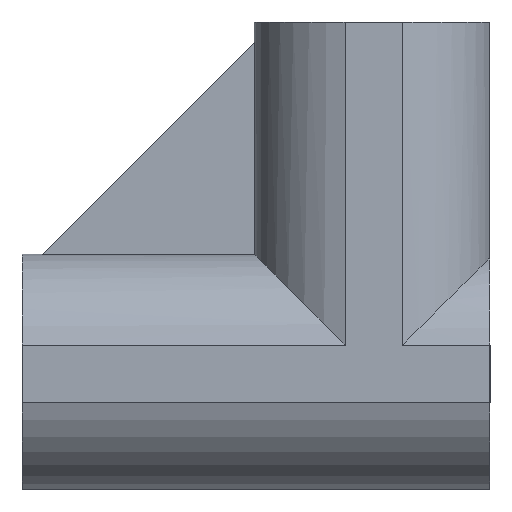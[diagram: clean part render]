
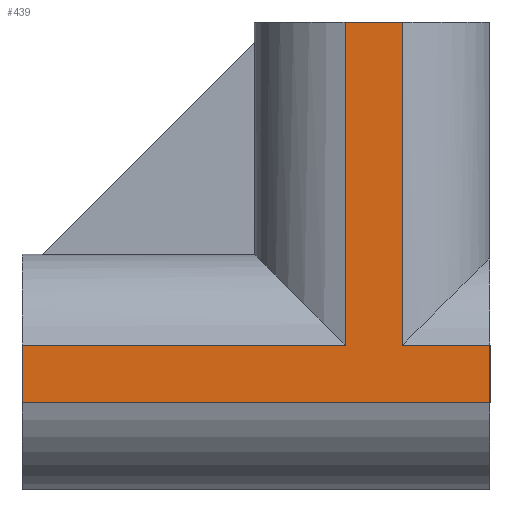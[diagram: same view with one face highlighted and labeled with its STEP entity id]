
A CAD part, left-side view. The second image highlights one B-rep face of the part: STEP entity #439.
In plain terms, the highlighted planar face has unit normal (-1, 0, 0).
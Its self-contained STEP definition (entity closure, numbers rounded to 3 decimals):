
#6 = LINE ( 'NONE', #690, #382 ) ;
#56 = EDGE_CURVE ( 'NONE', #1212, #1360, #202, .T. ) ;
#104 = VECTOR ( 'NONE', #703, 1000. ) ;
#132 = LINE ( 'NONE', #704, #450 ) ;
#138 = CARTESIAN_POINT ( 'NONE',  ( -16.5, 4.093, 4.093 ) ) ;
#168 = AXIS2_PLACEMENT_3D ( 'NONE', #1179, #207, #652 ) ;
#202 = LINE ( 'NONE', #1295, #673 ) ;
#207 = DIRECTION ( 'NONE',  ( 1., 0., 0. ) ) ;
#227 = DIRECTION ( 'NONE',  ( 0., 1., 0. ) ) ;
#270 = EDGE_CURVE ( 'NONE', #1031, #645, #714, .T. ) ;
#285 = CARTESIAN_POINT ( 'NONE',  ( -16.5, -16.5, 4.093 ) ) ;
#291 = EDGE_CURVE ( 'NONE', #1081, #357, #708, .T. ) ;
#293 = DIRECTION ( 'NONE',  ( 0., 1., 0. ) ) ;
#324 = ORIENTED_EDGE ( 'NONE', *, *, #847, .F. ) ;
#357 = VERTEX_POINT ( 'NONE', #138 ) ;
#382 = VECTOR ( 'NONE', #888, 1000. ) ;
#415 = LINE ( 'NONE', #1037, #1361 ) ;
#434 = EDGE_LOOP ( 'NONE', ( #1024, #874, #651, #624, #324, #676, #819, #575 ) ) ;
#439 = ADVANCED_FACE ( 'NONE', ( #1069 ), #1205, .F. ) ;
#450 = VECTOR ( 'NONE', #567, 1000. ) ;
#469 = CARTESIAN_POINT ( 'NONE',  ( -16.5, -4.093, 50. ) ) ;
#485 = EDGE_CURVE ( 'NONE', #1360, #1081, #646, .T. ) ;
#489 = VECTOR ( 'NONE', #227, 1000. ) ;
#529 = CARTESIAN_POINT ( 'NONE',  ( -16.5, 4.093, 50. ) ) ;
#567 = DIRECTION ( 'NONE',  ( 0., 0., -1. ) ) ;
#575 = ORIENTED_EDGE ( 'NONE', *, *, #485, .T. ) ;
#621 = DIRECTION ( 'NONE',  ( 0., 0., 1. ) ) ;
#624 = ORIENTED_EDGE ( 'NONE', *, *, #270, .T. ) ;
#645 = VERTEX_POINT ( 'NONE', #795 ) ;
#646 = LINE ( 'NONE', #990, #489 ) ;
#651 = ORIENTED_EDGE ( 'NONE', *, *, #1215, .T. ) ;
#652 = DIRECTION ( 'NONE',  ( 0., 0., -1. ) ) ;
#673 = VECTOR ( 'NONE', #621, 1000. ) ;
#676 = ORIENTED_EDGE ( 'NONE', *, *, #1077, .T. ) ;
#690 = CARTESIAN_POINT ( 'NONE',  ( -16.5, -16.5, 4.093 ) ) ;
#703 = DIRECTION ( 'NONE',  ( 0., -1., 0. ) ) ;
#704 = CARTESIAN_POINT ( 'NONE',  ( -16.5, -16.5, -4.1 ) ) ;
#708 = LINE ( 'NONE', #930, #1104 ) ;
#714 = LINE ( 'NONE', #1238, #104 ) ;
#736 = CARTESIAN_POINT ( 'NONE',  ( -16.5, 50., -4.1 ) ) ;
#795 = CARTESIAN_POINT ( 'NONE',  ( -16.5, -16.5, -4.093 ) ) ;
#819 = ORIENTED_EDGE ( 'NONE', *, *, #56, .T. ) ;
#847 = EDGE_CURVE ( 'NONE', #1068, #645, #132, .T. ) ;
#874 = ORIENTED_EDGE ( 'NONE', *, *, #1369, .T. ) ;
#888 = DIRECTION ( 'NONE',  ( 0., 1., 0. ) ) ;
#930 = CARTESIAN_POINT ( 'NONE',  ( -16.5, 4.093, -17.001 ) ) ;
#939 = CARTESIAN_POINT ( 'NONE',  ( -16.5, 50., -4.093 ) ) ;
#944 = CARTESIAN_POINT ( 'NONE',  ( -16.5, -4.093, 4.093 ) ) ;
#990 = CARTESIAN_POINT ( 'NONE',  ( -16.5, -4.1, 50. ) ) ;
#1013 = VECTOR ( 'NONE', #1395, 1000. ) ;
#1024 = ORIENTED_EDGE ( 'NONE', *, *, #291, .T. ) ;
#1031 = VERTEX_POINT ( 'NONE', #939 ) ;
#1037 = CARTESIAN_POINT ( 'NONE',  ( -16.5, -16.5, 4.093 ) ) ;
#1068 = VERTEX_POINT ( 'NONE', #285 ) ;
#1069 = FACE_OUTER_BOUND ( 'NONE', #434, .T. ) ;
#1077 = EDGE_CURVE ( 'NONE', #1068, #1212, #415, .T. ) ;
#1081 = VERTEX_POINT ( 'NONE', #529 ) ;
#1104 = VECTOR ( 'NONE', #1214, 1000. ) ;
#1118 = VERTEX_POINT ( 'NONE', #1316 ) ;
#1179 = CARTESIAN_POINT ( 'NONE',  ( -16.5, -4.1, -17. ) ) ;
#1205 = PLANE ( 'NONE',  #168 ) ;
#1212 = VERTEX_POINT ( 'NONE', #944 ) ;
#1214 = DIRECTION ( 'NONE',  ( 0., 0., -1. ) ) ;
#1215 = EDGE_CURVE ( 'NONE', #1118, #1031, #1271, .T. ) ;
#1238 = CARTESIAN_POINT ( 'NONE',  ( -16.5, -16.5, -4.093 ) ) ;
#1271 = LINE ( 'NONE', #736, #1013 ) ;
#1295 = CARTESIAN_POINT ( 'NONE',  ( -16.5, -4.093, -17.001 ) ) ;
#1316 = CARTESIAN_POINT ( 'NONE',  ( -16.5, 50., 4.093 ) ) ;
#1360 = VERTEX_POINT ( 'NONE', #469 ) ;
#1361 = VECTOR ( 'NONE', #293, 1000. ) ;
#1369 = EDGE_CURVE ( 'NONE', #357, #1118, #6, .T. ) ;
#1395 = DIRECTION ( 'NONE',  ( 0., 0., -1. ) ) ;
